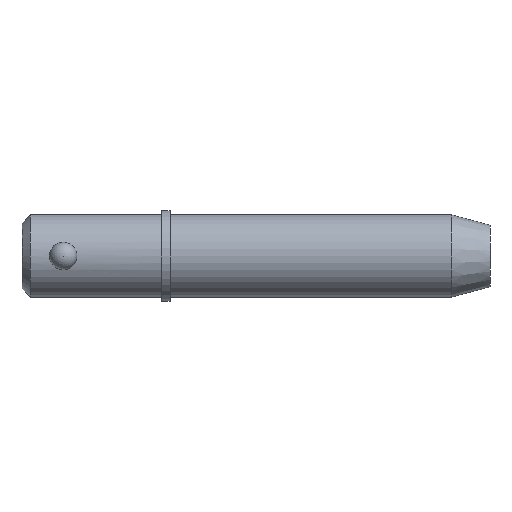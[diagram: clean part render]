
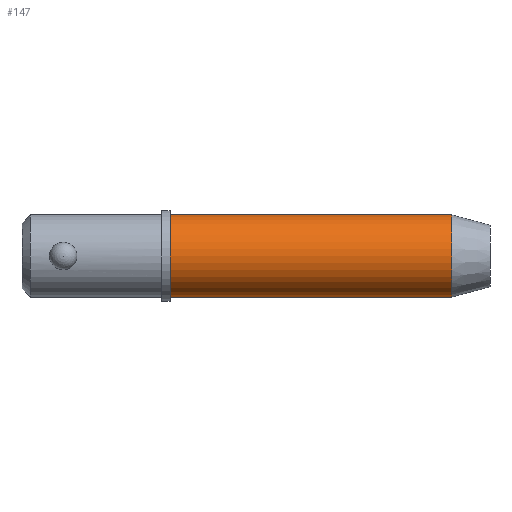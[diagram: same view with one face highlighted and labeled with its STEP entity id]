
A CAD part, front view. The second image highlights one B-rep face of the part: STEP entity #147.
In plain terms, the highlighted cylindrical face has radius 7.145 mm (diameter 14.29 mm), a partial arc.
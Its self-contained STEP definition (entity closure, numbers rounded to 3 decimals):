
#13 = VECTOR ( 'NONE', #251, 1000. ) ;
#36 = VERTEX_POINT ( 'NONE', #708 ) ;
#46 = AXIS2_PLACEMENT_3D ( 'NONE', #75, #316, #714 ) ;
#69 = CYLINDRICAL_SURFACE ( 'NONE', #46, 7.145 ) ;
#75 = CARTESIAN_POINT ( 'NONE',  ( 0., 0., 0. ) ) ;
#104 = CARTESIAN_POINT ( 'NONE',  ( 25.7, 0., 0. ) ) ;
#121 = EDGE_LOOP ( 'NONE', ( #956, #486, #526, #428 ) ) ;
#147 = ADVANCED_FACE ( 'NONE', ( #322 ), #69, .T. ) ;
#152 = VECTOR ( 'NONE', #626, 1000. ) ;
#226 = LINE ( 'NONE', #1021, #152 ) ;
#251 = DIRECTION ( 'NONE',  ( 1., 0., 0. ) ) ;
#260 = LINE ( 'NONE', #965, #13 ) ;
#261 = DIRECTION ( 'NONE',  ( 1., 0., 0. ) ) ;
#316 = DIRECTION ( 'NONE',  ( 1., 0., 0. ) ) ;
#317 = AXIS2_PLACEMENT_3D ( 'NONE', #989, #261, #351 ) ;
#320 = EDGE_CURVE ( 'NONE', #36, #504, #430, .T. ) ;
#322 = FACE_OUTER_BOUND ( 'NONE', #121, .T. ) ;
#351 = DIRECTION ( 'NONE',  ( 0., 0., -1. ) ) ;
#426 = EDGE_CURVE ( 'NONE', #443, #890, #792, .T. ) ;
#428 = ORIENTED_EDGE ( 'NONE', *, *, #426, .F. ) ;
#430 = CIRCLE ( 'NONE', #654, 7.145 ) ;
#443 = VERTEX_POINT ( 'NONE', #675 ) ;
#486 = ORIENTED_EDGE ( 'NONE', *, *, #320, .T. ) ;
#504 = VERTEX_POINT ( 'NONE', #941 ) ;
#508 = DIRECTION ( 'NONE',  ( 0., 0., -1. ) ) ;
#526 = ORIENTED_EDGE ( 'NONE', *, *, #595, .T. ) ;
#595 = EDGE_CURVE ( 'NONE', #504, #890, #260, .T. ) ;
#626 = DIRECTION ( 'NONE',  ( 1., 0., 0. ) ) ;
#654 = AXIS2_PLACEMENT_3D ( 'NONE', #104, #910, #508 ) ;
#675 = CARTESIAN_POINT ( 'NONE',  ( 74.584, 0., 7.145 ) ) ;
#708 = CARTESIAN_POINT ( 'NONE',  ( 25.7, 0., 7.145 ) ) ;
#714 = DIRECTION ( 'NONE',  ( 0., 0., -1. ) ) ;
#792 = CIRCLE ( 'NONE', #317, 7.145 ) ;
#820 = EDGE_CURVE ( 'NONE', #36, #443, #226, .T. ) ;
#874 = CARTESIAN_POINT ( 'NONE',  ( 74.584, 0., -7.145 ) ) ;
#890 = VERTEX_POINT ( 'NONE', #874 ) ;
#910 = DIRECTION ( 'NONE',  ( 1., 0., 0. ) ) ;
#941 = CARTESIAN_POINT ( 'NONE',  ( 25.7, 0., -7.145 ) ) ;
#956 = ORIENTED_EDGE ( 'NONE', *, *, #820, .F. ) ;
#965 = CARTESIAN_POINT ( 'NONE',  ( 0., 0., -7.145 ) ) ;
#989 = CARTESIAN_POINT ( 'NONE',  ( 74.584, 0., 0. ) ) ;
#1021 = CARTESIAN_POINT ( 'NONE',  ( 0., 0., 7.145 ) ) ;
